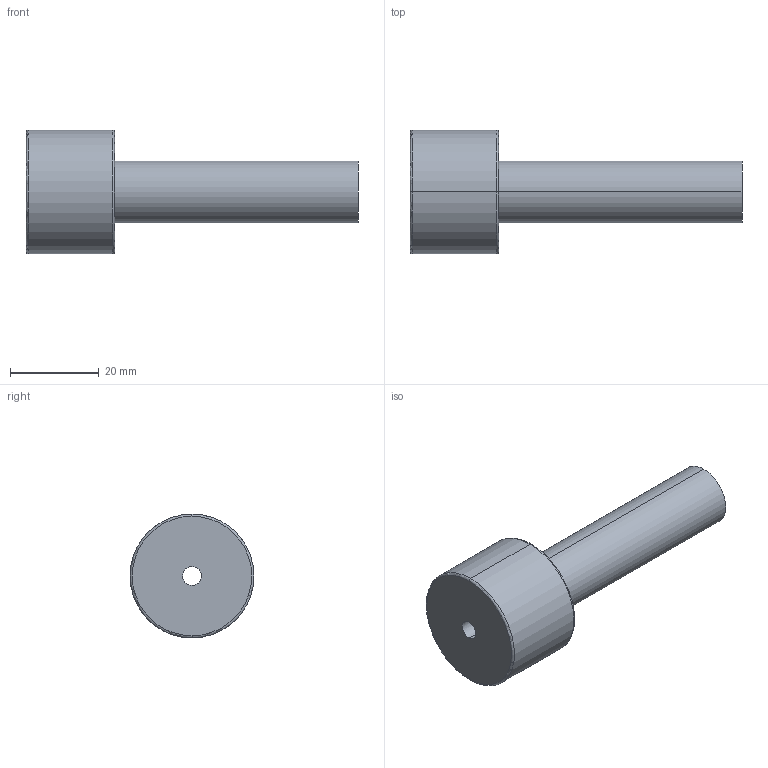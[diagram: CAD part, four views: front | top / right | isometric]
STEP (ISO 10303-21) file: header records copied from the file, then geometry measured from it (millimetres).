
FILE_DESCRIPTION(('CATIA V5 STEP Exchange'),'2;1');
FILE_NAME('C:\Users\Utente\Desktop\IO LAVORO\3D X SITO CF\X SITO\PLASTICA\3D files 367\367F-14X75.stp','2021-03-24T15:54:09+00:00',('none'),('none'),'CATIA Version 5 Release 20 GA (IN-10)','CATIA V5 STEP AP203','none');
FILE_SCHEMA(('CONFIG_CONTROL_DESIGN'));
Length unit declared in the file: millimetre
Products named in the file (1): 367F-14X75
Bounding box: 75 x 28 x 28 mm (x, y, z)
Volume: 18385.3 mm3; surface area: 6780.6 mm2
Topology: 1 solids, 1 shells, 13 faces, 42 edges, 32 vertices
Faces by surface type: torus 4, cylinder 4, plane 3, cone 2
Entity records: 614 total; most frequent: CARTESIAN_POINT 200, ORIENTED_EDGE 84, DIRECTION 60, AXIS2_PLACEMENT_3D 42, EDGE_CURVE 42, VERTEX_POINT 32, CIRCLE 28, EDGE_LOOP 16
